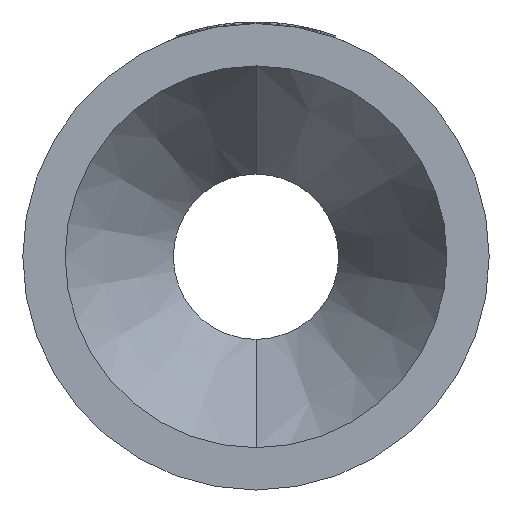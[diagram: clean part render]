
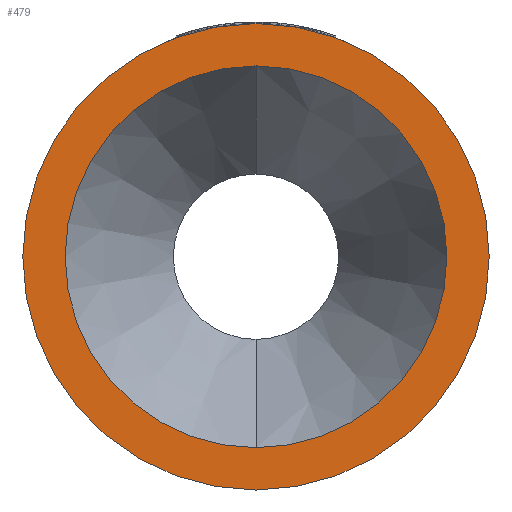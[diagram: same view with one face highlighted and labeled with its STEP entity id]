
A CAD part, left-side view. The second image highlights one B-rep face of the part: STEP entity #479.
In plain terms, the highlighted planar face has unit normal (-1, 0, 0).
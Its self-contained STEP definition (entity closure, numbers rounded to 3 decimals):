
#52 = VERTEX_POINT ( 'NONE', #1889 ) ;
#182 = ORIENTED_EDGE ( 'NONE', *, *, #1880, .T. ) ;
#479 = ADVANCED_FACE ( 'NONE', ( #2199, #3168 ), #3183, .F. ) ;
#846 = CIRCLE ( 'NONE', #3203, 57.3 ) ;
#1342 = VERTEX_POINT ( 'NONE', #1904 ) ;
#1538 = ORIENTED_EDGE ( 'NONE', *, *, #3403, .F. ) ;
#1654 = CARTESIAN_POINT ( 'NONE',  ( 0., 0., 57.3 ) ) ;
#1685 = ORIENTED_EDGE ( 'NONE', *, *, #3451, .T. ) ;
#1880 = EDGE_CURVE ( 'NONE', #1342, #2247, #1993, .T. ) ;
#1889 = CARTESIAN_POINT ( 'NONE',  ( 0., 0., -57.3 ) ) ;
#1904 = CARTESIAN_POINT ( 'NONE',  ( 0., 0., 70. ) ) ;
#1945 = EDGE_LOOP ( 'NONE', ( #182, #1685 ) ) ;
#1993 = CIRCLE ( 'NONE', #3276, 70. ) ;
#2199 = FACE_BOUND ( 'NONE', #2758, .T. ) ;
#2211 = ORIENTED_EDGE ( 'NONE', *, *, #2235, .F. ) ;
#2235 = EDGE_CURVE ( 'NONE', #52, #3129, #846, .T. ) ;
#2247 = VERTEX_POINT ( 'NONE', #3198 ) ;
#2531 = DIRECTION ( 'NONE',  ( 0., 0., -1. ) ) ;
#2538 = DIRECTION ( 'NONE',  ( 1., 0., 0. ) ) ;
#2727 = CARTESIAN_POINT ( 'NONE',  ( 0., 57.3, 0. ) ) ;
#2733 = AXIS2_PLACEMENT_3D ( 'NONE', #2884, #2876, #2847 ) ;
#2735 = AXIS2_PLACEMENT_3D ( 'NONE', #2969, #2951, #2945 ) ;
#2758 = EDGE_LOOP ( 'NONE', ( #1538, #2211 ) ) ;
#2847 = DIRECTION ( 'NONE',  ( 0., 0., 1. ) ) ;
#2876 = DIRECTION ( 'NONE',  ( -1., 0., 0. ) ) ;
#2884 = CARTESIAN_POINT ( 'NONE',  ( 0., 0., 0. ) ) ;
#2945 = DIRECTION ( 'NONE',  ( 0., 0., 1. ) ) ;
#2951 = DIRECTION ( 'NONE',  ( -1., 0., 0. ) ) ;
#2969 = CARTESIAN_POINT ( 'NONE',  ( 0., 0., 0. ) ) ;
#2987 = CIRCLE ( 'NONE', #2735, 57.3 ) ;
#3086 = DIRECTION ( 'NONE',  ( 0., 0., 1. ) ) ;
#3099 = CIRCLE ( 'NONE', #2733, 70. ) ;
#3105 = DIRECTION ( 'NONE',  ( -1., 0., 0. ) ) ;
#3114 = CARTESIAN_POINT ( 'NONE',  ( 0., 0., 0. ) ) ;
#3129 = VERTEX_POINT ( 'NONE', #1654 ) ;
#3168 = FACE_OUTER_BOUND ( 'NONE', #1945, .T. ) ;
#3183 = PLANE ( 'NONE',  #3449 ) ;
#3198 = CARTESIAN_POINT ( 'NONE',  ( 0., 0., -70. ) ) ;
#3201 = DIRECTION ( 'NONE',  ( 0., 0., 1. ) ) ;
#3203 = AXIS2_PLACEMENT_3D ( 'NONE', #3245, #3215, #3201 ) ;
#3215 = DIRECTION ( 'NONE',  ( -1., 0., 0. ) ) ;
#3245 = CARTESIAN_POINT ( 'NONE',  ( 0., 0., 0. ) ) ;
#3276 = AXIS2_PLACEMENT_3D ( 'NONE', #3114, #3105, #3086 ) ;
#3403 = EDGE_CURVE ( 'NONE', #3129, #52, #2987, .T. ) ;
#3449 = AXIS2_PLACEMENT_3D ( 'NONE', #2727, #2538, #2531 ) ;
#3451 = EDGE_CURVE ( 'NONE', #2247, #1342, #3099, .T. ) ;
